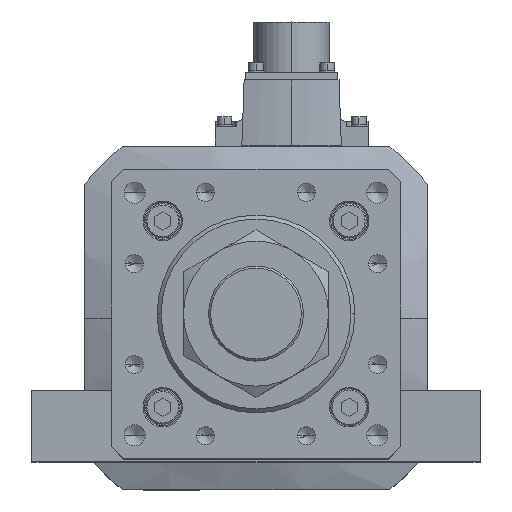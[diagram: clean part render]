
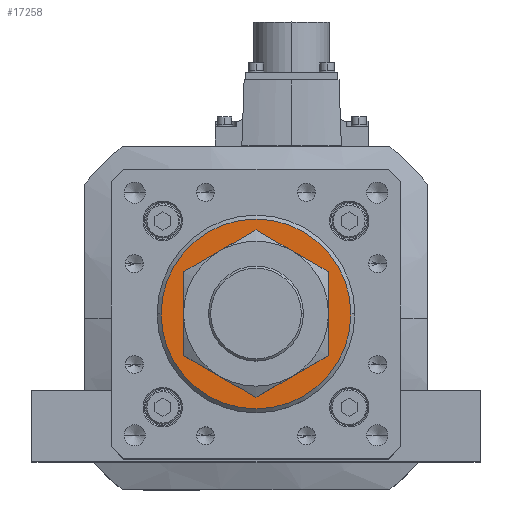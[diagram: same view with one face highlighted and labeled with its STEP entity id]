
A CAD part, top view. The second image highlights one B-rep face of the part: STEP entity #17258.
In plain terms, the highlighted planar face has unit normal (0, 0, 1).
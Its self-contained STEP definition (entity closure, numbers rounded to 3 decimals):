
#642 = CARTESIAN_POINT ( 'NONE',  ( 23., 0., 646. ) ) ;
#809 = DIRECTION ( 'NONE',  ( 0., 0., 1. ) ) ;
#1341 = CARTESIAN_POINT ( 'NONE',  ( 0., 0., 646. ) ) ;
#4088 = VERTEX_POINT ( 'NONE', #26340 ) ;
#4346 = CARTESIAN_POINT ( 'NONE',  ( 0., 0., 646. ) ) ;
#6357 = FACE_OUTER_BOUND ( 'NONE', #23674, .T. ) ;
#6362 = DIRECTION ( 'NONE',  ( 1., 0., 0. ) ) ;
#6681 = AXIS2_PLACEMENT_3D ( 'NONE', #21199, #30130, #27031 ) ;
#9718 = DIRECTION ( 'NONE',  ( 1., 0., 0. ) ) ;
#11553 = CARTESIAN_POINT ( 'NONE',  ( 36., 0., 646. ) ) ;
#12479 = AXIS2_PLACEMENT_3D ( 'NONE', #4346, #25214, #28330 ) ;
#15275 = EDGE_CURVE ( 'NONE', #4088, #31486, #29671, .T. ) ;
#16134 = VERTEX_POINT ( 'NONE', #642 ) ;
#17111 = CARTESIAN_POINT ( 'NONE',  ( 0., 0., 646. ) ) ;
#17258 = ADVANCED_FACE ( 'NONE', ( #30033, #6357 ), #32926, .T. ) ;
#17461 = ORIENTED_EDGE ( 'NONE', *, *, #23040, .T. ) ;
#17633 = AXIS2_PLACEMENT_3D ( 'NONE', #17111, #20113, #31651 ) ;
#17787 = EDGE_LOOP ( 'NONE', ( #17461, #34888 ) ) ;
#18851 = AXIS2_PLACEMENT_3D ( 'NONE', #24127, #809, #6362 ) ;
#19120 = CIRCLE ( 'NONE', #17633, 23. ) ;
#20113 = DIRECTION ( 'NONE',  ( 0., 0., -1. ) ) ;
#20374 = AXIS2_PLACEMENT_3D ( 'NONE', #1341, #27397, #9718 ) ;
#20812 = CIRCLE ( 'NONE', #6681, 36. ) ;
#21199 = CARTESIAN_POINT ( 'NONE',  ( 0., 0., 646. ) ) ;
#21795 = EDGE_CURVE ( 'NONE', #36889, #16134, #26211, .T. ) ;
#21988 = ORIENTED_EDGE ( 'NONE', *, *, #15275, .T. ) ;
#23040 = EDGE_CURVE ( 'NONE', #16134, #36889, #19120, .T. ) ;
#23674 = EDGE_LOOP ( 'NONE', ( #21988, #32270 ) ) ;
#23760 = CARTESIAN_POINT ( 'NONE',  ( -23., 0., 646. ) ) ;
#24127 = CARTESIAN_POINT ( 'NONE',  ( 0., 0., 646. ) ) ;
#25214 = DIRECTION ( 'NONE',  ( 0., 0., 1. ) ) ;
#26211 = CIRCLE ( 'NONE', #20374, 23. ) ;
#26340 = CARTESIAN_POINT ( 'NONE',  ( -36., 0., 646. ) ) ;
#27031 = DIRECTION ( 'NONE',  ( 1., 0., 0. ) ) ;
#27397 = DIRECTION ( 'NONE',  ( 0., 0., -1. ) ) ;
#28330 = DIRECTION ( 'NONE',  ( 1., 0., 0. ) ) ;
#29671 = CIRCLE ( 'NONE', #12479, 36. ) ;
#30033 = FACE_BOUND ( 'NONE', #17787, .T. ) ;
#30130 = DIRECTION ( 'NONE',  ( 0., 0., 1. ) ) ;
#31486 = VERTEX_POINT ( 'NONE', #11553 ) ;
#31651 = DIRECTION ( 'NONE',  ( 1., 0., 0. ) ) ;
#32270 = ORIENTED_EDGE ( 'NONE', *, *, #33261, .T. ) ;
#32926 = PLANE ( 'NONE',  #18851 ) ;
#33261 = EDGE_CURVE ( 'NONE', #31486, #4088, #20812, .T. ) ;
#34888 = ORIENTED_EDGE ( 'NONE', *, *, #21795, .T. ) ;
#36889 = VERTEX_POINT ( 'NONE', #23760 ) ;
